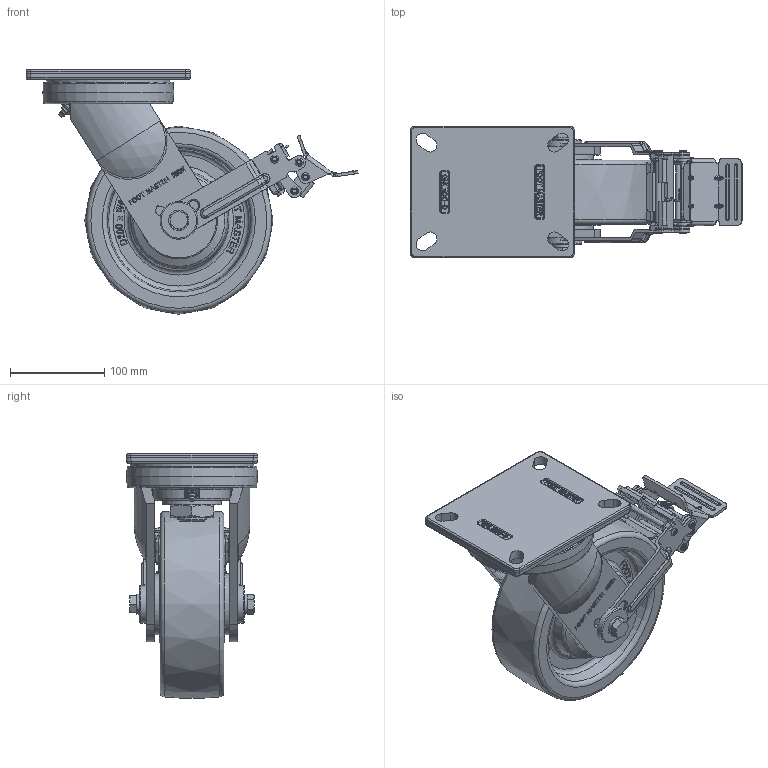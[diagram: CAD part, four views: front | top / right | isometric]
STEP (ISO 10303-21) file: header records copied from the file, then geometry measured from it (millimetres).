
FILE_DESCRIPTION(/* description */ (''),/* implementation_level */ '2;1');
FILE_NAME(/* name */ 'Y:\1.기술연구소\2.연구개발 진행중\133.고하중캐스터 브레이크 타입 변경건_2025.11.03\1.도면\4.홈페이지용 도면\01. 3D\GXT-200 SERIES\GXT-200-STEP\GXT-200N-BSF-NYD-TB.stp',/* time_stamp */ '2026-07-21T19:35:24+09:00',/* author */ ('장용하'),/* organization */ (''),/* preprocessor_version */ 'ST-DEVELOPER v18.1',/* originating_system */ 'Autodesk Inventor 2021',/* authorisation */ '');
FILE_SCHEMA (('CONFIG_CONTROL_DESIGN'));
Products named in the file (1): GXT-200N-BSF-NYD-TB
Bounding box: 352.95 x 140 x 259.84 mm (x, y, z)
Volume: 2839539.4 mm3; surface area: 320890.2 mm2
Topology: 1 solids, 1 shells, 2116 faces, 5704 edges, 3711 vertices
Faces by surface type: plane 877, bspline 677, cylinder 433, torus 80, cone 37, sphere 12
Full cylindrical faces by diameter (mm): 2 x7, 4 x6, 6 x2, 6.2 x14, 6.3 x2, 6.5 x2, 6.8 x4, 8 x6, 8.5 x6, 12 x2, 13 x2, 30 x1, 40 x2, 62.5 x1, 65 x2, 131.086 x1
Entity records: 72455 total; most frequent: CARTESIAN_POINT 22710, ORIENTED_EDGE 11404, DIRECTION 8605, EDGE_CURVE 5702, VERTEX_POINT 3711, LINE 3007, VECTOR 3007, AXIS2_PLACEMENT_3D 2799
